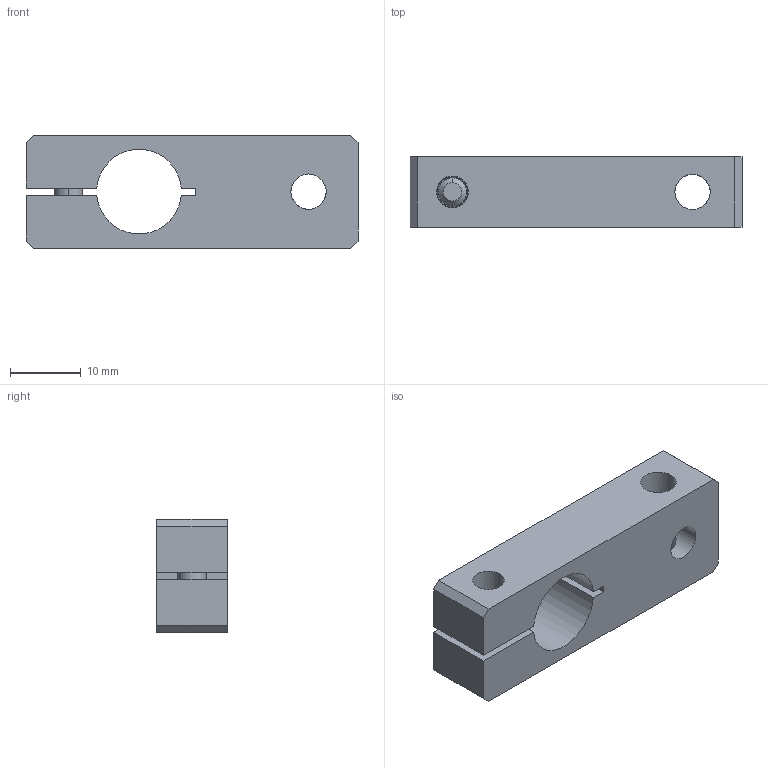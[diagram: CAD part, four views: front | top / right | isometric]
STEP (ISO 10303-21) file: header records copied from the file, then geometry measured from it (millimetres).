
FILE_DESCRIPTION (( 'STEP AP214' ), '1' );
FILE_NAME ('SMBG1-12M6T.STEP', '2022-12-29T06:58:45', ( 'Windows User' ), ( 'P R C' ), 'SwSTEP 2.0', 'SolidWorks 2018', '' );
FILE_SCHEMA (( 'AUTOMOTIVE_DESIGN' ));
Length unit declared in the file: millimetre
Products named in the file (1): SMBG1-12M6T
Bounding box: 47 x 10 x 16.1 mm (x, y, z)
Volume: 5671.8 mm3; surface area: 3874.4 mm2
Topology: 3 solids, 3 shells, 247 faces, 706 edges, 464 vertices
Faces by surface type: plane 219, cylinder 24, cone 2, bspline 2
Entity records: 10984 total; most frequent: CARTESIAN_POINT 1560, DIRECTION 1414, ORIENTED_EDGE 1412, EDGE_CURVE 706, AXIS2_PLACEMENT_3D 472, LINE 470, VECTOR 470, VERTEX_POINT 464
